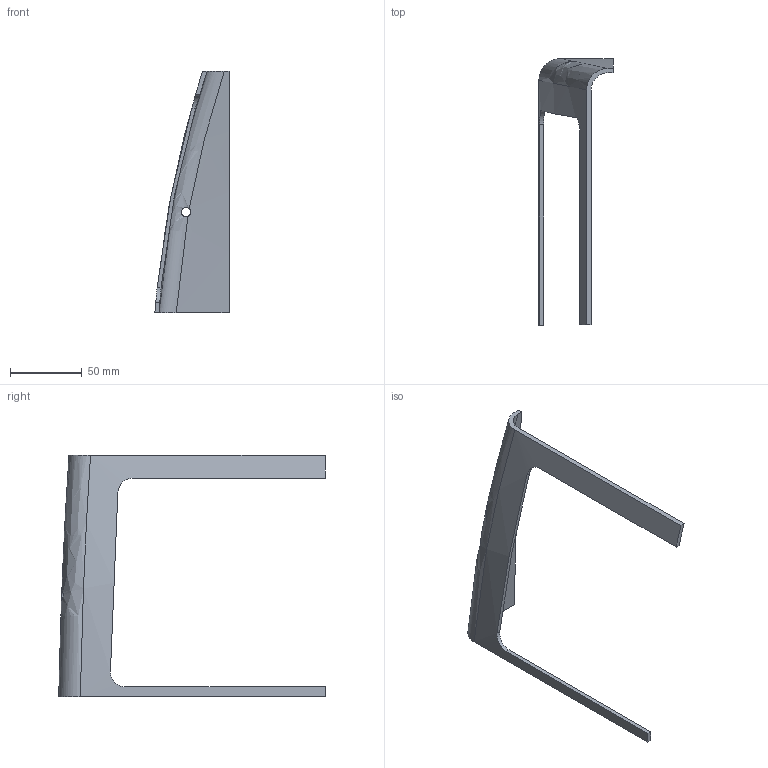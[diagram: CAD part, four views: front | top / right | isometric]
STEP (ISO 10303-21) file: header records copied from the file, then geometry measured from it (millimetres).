
FILE_DESCRIPTION(('Open CASCADE Model'),'2;1');
FILE_NAME('Open CASCADE Shape Model','2026-11-03T04:29:28',('Author'),( 'Open CASCADE'),'Open CASCADE STEP processor 7.8','Open CASCADE 7.8' ,'Unknown');
FILE_SCHEMA(('AUTOMOTIVE_DESIGN { 1 0 10303 214 1 1 1 1 }'));
Length unit declared in the file: millimetre
Products named in the file (1): Open CASCADE STEP translator 7.8 4
Bounding box: 51.71 x 185.58 x 168 mm (x, y, z)
Volume: 39929 mm3; surface area: 32308.7 mm2
Topology: 1 solids, 1 shells, 17 faces, 51 edges, 34 vertices
Faces by surface type: plane 8, bspline 6, cylinder 3
Full cylindrical faces by diameter (mm): 6.5 x1
Entity records: 2831 total; most frequent: CARTESIAN_POINT 2028, B_SPLINE_CURVE_WITH_KNOTS 108, ORIENTED_EDGE 102, PCURVE 102, DEFINITIONAL_REPRESENTATION 102, DIRECTION 69, EDGE_CURVE 51, SURFACE_CURVE 50
